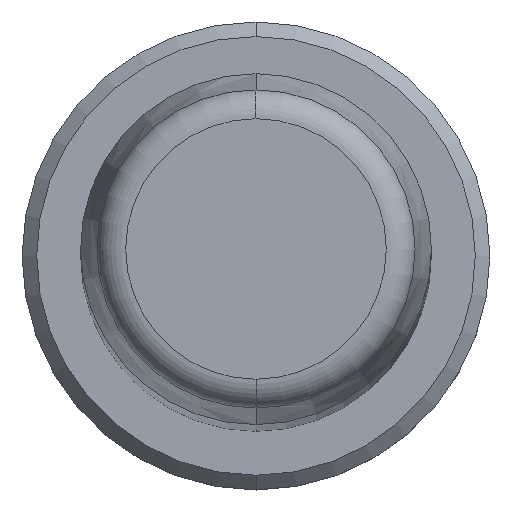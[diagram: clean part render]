
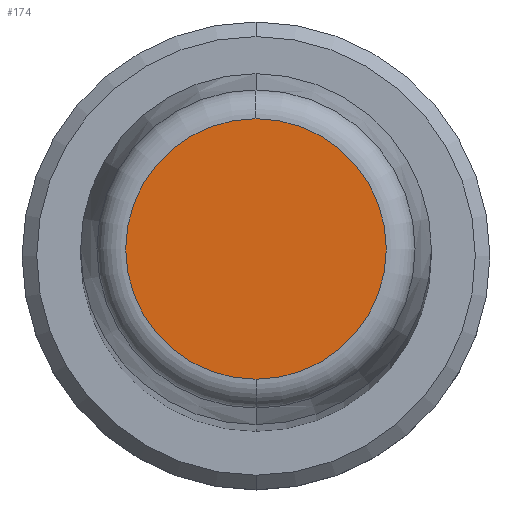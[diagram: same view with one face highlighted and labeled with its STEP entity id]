
A CAD part, top view. The second image highlights one B-rep face of the part: STEP entity #174.
In plain terms, the highlighted planar face has unit normal (0, 0, 1).
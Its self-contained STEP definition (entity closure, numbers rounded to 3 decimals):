
#1=CARTESIAN_POINT('',(0.,0.,140.));
#2=DIRECTION('',(0.,0.,-1.));
#3=DIRECTION('',(0.,-1.,0.));
#4=AXIS2_PLACEMENT_3D('',#1,#2,#3);
#6=CARTESIAN_POINT('',(0.,0.,140.));
#7=DIRECTION('',(0.,0.,-1.));
#8=DIRECTION('',(0.,1.,0.));
#9=AXIS2_PLACEMENT_3D('',#6,#7,#8);
#159=CARTESIAN_POINT('',(0.,-4.456,140.));
#160=CARTESIAN_POINT('',(0.,4.456,140.));
#161=VERTEX_POINT('',#159);
#162=VERTEX_POINT('',#160);
#163=CARTESIAN_POINT('',(0.,0.,140.));
#164=DIRECTION('',(0.,0.,1.));
#165=DIRECTION('',(0.,-1.,0.));
#166=AXIS2_PLACEMENT_3D('',#163,#164,#165);
#167=PLANE('',#166);
#169=ORIENTED_EDGE('',*,*,#168,.T.);
#171=ORIENTED_EDGE('',*,*,#170,.T.);
#172=EDGE_LOOP('',(#169,#171));
#173=FACE_OUTER_BOUND('',#172,.F.);
#174=ADVANCED_FACE('',(#173),#167,.T.);
#5=CIRCLE('',#4,4.456);
#10=CIRCLE('',#9,4.456);
#168=EDGE_CURVE('',#161,#162,#5,.T.);
#170=EDGE_CURVE('',#162,#161,#10,.T.);
